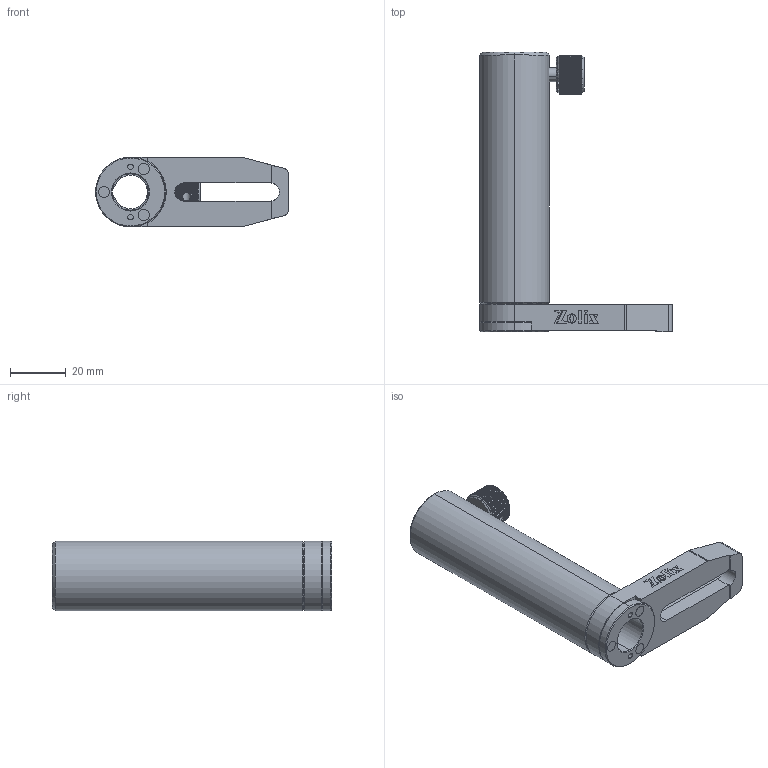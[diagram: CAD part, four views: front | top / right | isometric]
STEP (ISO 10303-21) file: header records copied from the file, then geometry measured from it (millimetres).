
FILE_DESCRIPTION (( 'STEP AP203' ), '1' );
FILE_NAME ('NPH100.step', '2019-05-09T09:00:46', ( '' ), ( '' ), 'SwSTEP 2.0', 'SolidWorks 2016', '' );
FILE_SCHEMA (( 'CONFIG_CONTROL_DESIGN' ));
Length unit declared in the file: millimetre
Products named in the file (1): NPH100
Bounding box: 69 x 100 x 25 mm (x, y, z)
Surface area: 17829.8 mm2 (no closed solid volume)
Topology: 0 solids, 13 shells, 397 faces, 1413 edges, 1028 vertices
Faces by surface type: plane 249, cylinder 134, cone 14
Entity records: 15718 total; most frequent: CARTESIAN_POINT 4265, ORIENTED_EDGE 2516, DIRECTION 2037, EDGE_CURVE 1413, VERTEX_POINT 1028, LINE 705, VECTOR 705, AXIS2_PLACEMENT_3D 666
